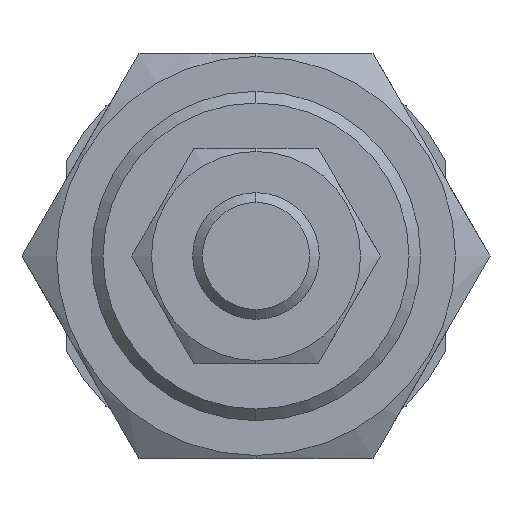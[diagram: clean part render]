
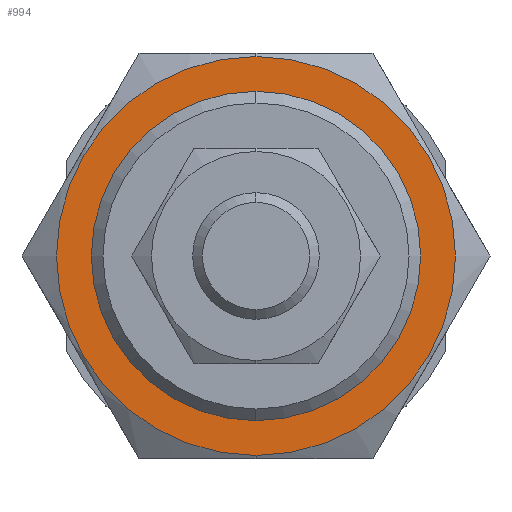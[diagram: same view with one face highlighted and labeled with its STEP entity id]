
A CAD part, left-side view. The second image highlights one B-rep face of the part: STEP entity #994.
In plain terms, the highlighted planar face has unit normal (-1, 0, 0).
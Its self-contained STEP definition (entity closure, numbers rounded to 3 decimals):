
#197 = FACE_BOUND ( 'NONE', #1927, .T. ) ;
#211 = CARTESIAN_POINT ( 'NONE',  ( -11., 0., 0. ) ) ;
#316 = ORIENTED_EDGE ( 'NONE', *, *, #2085, .F. ) ;
#353 = DIRECTION ( 'NONE',  ( 0., 1., 0. ) ) ;
#755 = CIRCLE ( 'NONE', #2483, 13. ) ;
#760 = DIRECTION ( 'NONE',  ( 1., 0., 0. ) ) ;
#922 = DIRECTION ( 'NONE',  ( 0., 0., -1. ) ) ;
#994 = ADVANCED_FACE ( 'NONE', ( #4316, #197 ), #1845, .F. ) ;
#1052 = CARTESIAN_POINT ( 'NONE',  ( -11., 0., 13. ) ) ;
#1071 = ORIENTED_EDGE ( 'NONE', *, *, #4565, .F. ) ;
#1120 = DIRECTION ( 'NONE',  ( 1., 0., 0. ) ) ;
#1121 = CARTESIAN_POINT ( 'NONE',  ( -11., 0., 0. ) ) ;
#1845 = PLANE ( 'NONE',  #3491 ) ;
#1927 = EDGE_LOOP ( 'NONE', ( #4566, #3433 ) ) ;
#2085 = EDGE_CURVE ( 'NONE', #3961, #5262, #2465, .T. ) ;
#2224 = DIRECTION ( 'NONE',  ( 1., 0., 0. ) ) ;
#2247 = VERTEX_POINT ( 'NONE', #3088 ) ;
#2465 = CIRCLE ( 'NONE', #2807, 15.75 ) ;
#2483 = AXIS2_PLACEMENT_3D ( 'NONE', #2973, #4978, #922 ) ;
#2807 = AXIS2_PLACEMENT_3D ( 'NONE', #1121, #760, #4821 ) ;
#2973 = CARTESIAN_POINT ( 'NONE',  ( -11., 0., 0. ) ) ;
#3088 = CARTESIAN_POINT ( 'NONE',  ( -11., 0., -13. ) ) ;
#3096 = CIRCLE ( 'NONE', #5343, 15.75 ) ;
#3323 = EDGE_LOOP ( 'NONE', ( #316, #1071 ) ) ;
#3355 = DIRECTION ( 'NONE',  ( 0., 0., -1. ) ) ;
#3368 = CARTESIAN_POINT ( 'NONE',  ( -11., 0., 15.75 ) ) ;
#3407 = CARTESIAN_POINT ( 'NONE',  ( -11., 0., 0. ) ) ;
#3433 = ORIENTED_EDGE ( 'NONE', *, *, #5052, .T. ) ;
#3491 = AXIS2_PLACEMENT_3D ( 'NONE', #5157, #1120, #353 ) ;
#3509 = DIRECTION ( 'NONE',  ( 1., 0., 0. ) ) ;
#3536 = DIRECTION ( 'NONE',  ( 0., 0., -1. ) ) ;
#3614 = AXIS2_PLACEMENT_3D ( 'NONE', #211, #3509, #3536 ) ;
#3834 = VERTEX_POINT ( 'NONE', #1052 ) ;
#3961 = VERTEX_POINT ( 'NONE', #4242 ) ;
#3998 = EDGE_CURVE ( 'NONE', #3834, #2247, #755, .T. ) ;
#4242 = CARTESIAN_POINT ( 'NONE',  ( -11., 0., -15.75 ) ) ;
#4316 = FACE_OUTER_BOUND ( 'NONE', #3323, .T. ) ;
#4480 = CIRCLE ( 'NONE', #3614, 13. ) ;
#4565 = EDGE_CURVE ( 'NONE', #5262, #3961, #3096, .T. ) ;
#4566 = ORIENTED_EDGE ( 'NONE', *, *, #3998, .T. ) ;
#4821 = DIRECTION ( 'NONE',  ( 0., 0., -1. ) ) ;
#4978 = DIRECTION ( 'NONE',  ( 1., 0., 0. ) ) ;
#5052 = EDGE_CURVE ( 'NONE', #2247, #3834, #4480, .T. ) ;
#5157 = CARTESIAN_POINT ( 'NONE',  ( -11., 0., 0. ) ) ;
#5262 = VERTEX_POINT ( 'NONE', #3368 ) ;
#5343 = AXIS2_PLACEMENT_3D ( 'NONE', #3407, #2224, #3355 ) ;
